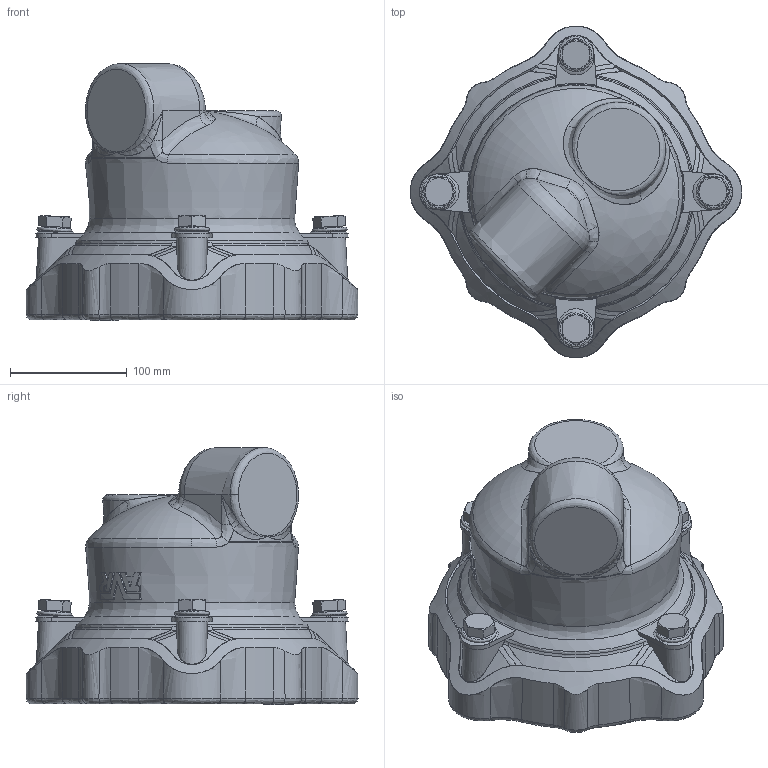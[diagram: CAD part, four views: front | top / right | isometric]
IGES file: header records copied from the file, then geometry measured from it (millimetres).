
Start section: SolidWorks IGES file using analytic representation for surfaces
Global section: file name: \\avksan2\techshare\PBM outline export from Enovia\O_634_00_DN125_132-161mm_AA0_igs.igs; native system: SolidWorks 2012; preprocessor: SolidWorks 2012; author: pbm; date: 160510.124039; units: millimetre
Bounding box: 284.76 x 284.76 x 220.5 mm (x, y, z)
Surface area: 286102.6 mm2 (no closed solid volume)
Topology: 0 solids, 0 shells, 516 faces, 3428 edges, 3393 vertices
Faces by surface type: revolution 295, bspline 221
